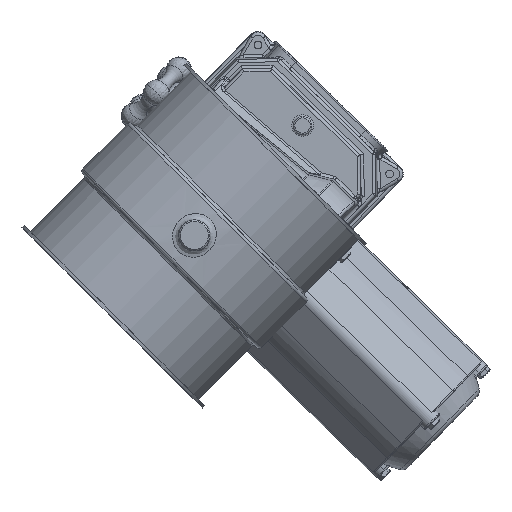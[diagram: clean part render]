
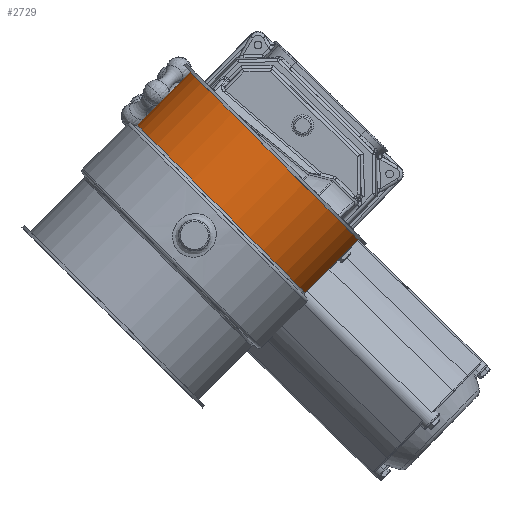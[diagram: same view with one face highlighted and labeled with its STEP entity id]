
A CAD part, top view. The second image highlights one B-rep face of the part: STEP entity #2729.
In plain terms, the highlighted cylindrical face has radius 76.5 mm (diameter 153 mm), a full revolution.
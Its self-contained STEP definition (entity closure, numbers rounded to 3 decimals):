
#2374=CARTESIAN_POINT('',(0.,148.041,0.));
#2375=VERTEX_POINT('',#2374);
#2376=CARTESIAN_POINT('',(-76.5,148.041,0.0));
#2377=DIRECTION('',(0.0,-1.0,0.0));
#2378=DIRECTION('',(1.0,0.0,0.0));
#2379=AXIS2_PLACEMENT_3D('',#2376,#2377,#2378);
#2380=CIRCLE('',#2379,76.5);
#2381=EDGE_CURVE('',#2375,#2375,#2380,.T.);
#2450=CARTESIAN_POINT('',(0.,99.541,0.0));
#2451=VERTEX_POINT('',#2450);
#2452=CARTESIAN_POINT('',(-76.5,99.541,0.0));
#2453=DIRECTION('',(0.0,-1.0,0.0));
#2454=DIRECTION('',(1.0,0.0,0.0));
#2455=AXIS2_PLACEMENT_3D('',#2452,#2453,#2454);
#2456=CIRCLE('',#2455,76.5);
#2457=EDGE_CURVE('',#2451,#2451,#2456,.T.);
#2718=CARTESIAN_POINT('',(-76.5,124.791,0.0));
#2719=DIRECTION('',(0.,-1.0,0.0));
#2720=DIRECTION('',(1.0,0.0,0.0));
#2721=AXIS2_PLACEMENT_3D('',#2718,#2719,#2720);
#2722=CYLINDRICAL_SURFACE('',#2721,76.5);
#2723=ORIENTED_EDGE('',*,*,#2381,.T.);
#2724=EDGE_LOOP('',(#2723));
#2725=FACE_OUTER_BOUND('',#2724,.T.);
#2726=ORIENTED_EDGE('',*,*,#2457,.F.);
#2727=EDGE_LOOP('',(#2726));
#2728=FACE_BOUND('',#2727,.T.);
#2729=ADVANCED_FACE('',(#2725,#2728),#2722,.T.);
